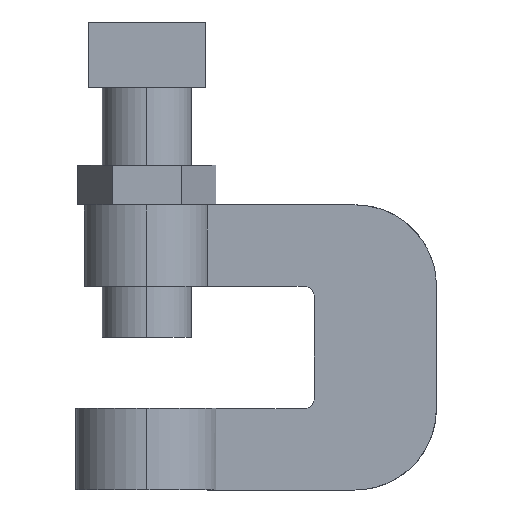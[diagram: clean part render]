
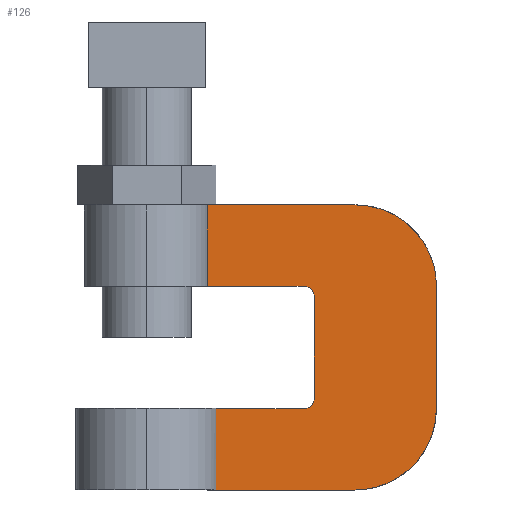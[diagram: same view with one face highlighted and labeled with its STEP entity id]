
A CAD part, front view. The second image highlights one B-rep face of the part: STEP entity #126.
In plain terms, the highlighted planar face has unit normal (0, -1, 0).
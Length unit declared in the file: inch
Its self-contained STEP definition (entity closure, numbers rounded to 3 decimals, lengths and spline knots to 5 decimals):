
#126=ADVANCED_FACE('',(#281),#282,.F.);
#281=FACE_OUTER_BOUND('',#516,.T.);
#282=PLANE('',#517);
#516=EDGE_LOOP('',(#914,#915,#916,#917,#918,#919,#920,#921,#922,#923,#924,#925,#926,#927));
#517=AXIS2_PLACEMENT_3D('',#928,#929,#930);
#914=ORIENTED_EDGE('',*,*,#1334,.T.);
#915=ORIENTED_EDGE('',*,*,#1321,.T.);
#916=ORIENTED_EDGE('',*,*,#1335,.F.);
#917=ORIENTED_EDGE('',*,*,#1276,.F.);
#918=ORIENTED_EDGE('',*,*,#1336,.F.);
#919=ORIENTED_EDGE('',*,*,#1337,.F.);
#920=ORIENTED_EDGE('',*,*,#1338,.F.);
#921=ORIENTED_EDGE('',*,*,#1295,.F.);
#922=ORIENTED_EDGE('',*,*,#1315,.F.);
#923=ORIENTED_EDGE('',*,*,#1339,.F.);
#924=ORIENTED_EDGE('',*,*,#1340,.F.);
#925=ORIENTED_EDGE('',*,*,#1341,.F.);
#926=ORIENTED_EDGE('',*,*,#1342,.F.);
#927=ORIENTED_EDGE('',*,*,#1343,.F.);
#928=CARTESIAN_POINT('',(0.74862,-0.125,0.99999));
#929=DIRECTION('',(0.,1.0,0.));
#930=DIRECTION('',(0.0,0.,1.0));
#1276=EDGE_CURVE('',#1491,#1493,#1494,.T.);
#1295=EDGE_CURVE('',#1524,#1526,#1527,.T.);
#1315=EDGE_CURVE('',#1558,#1524,#1560,.T.);
#1321=EDGE_CURVE('',#1570,#1568,#1571,.T.);
#1334=EDGE_CURVE('',#1592,#1570,#1593,.T.);
#1335=EDGE_CURVE('',#1493,#1568,#1594,.T.);
#1336=EDGE_CURVE('',#1595,#1491,#1596,.T.);
#1337=EDGE_CURVE('',#1597,#1595,#1598,.T.);
#1338=EDGE_CURVE('',#1526,#1597,#1599,.T.);
#1339=EDGE_CURVE('',#1600,#1558,#1601,.T.);
#1340=EDGE_CURVE('',#1602,#1600,#1603,.T.);
#1341=EDGE_CURVE('',#1604,#1602,#1605,.T.);
#1342=EDGE_CURVE('',#1606,#1604,#1607,.T.);
#1343=EDGE_CURVE('',#1592,#1606,#1608,.T.);
#1491=VERTEX_POINT('',#1810);
#1493=VERTEX_POINT('',#1813);
#1494=LINE('',#1814,#1815);
#1524=VERTEX_POINT('',#1858);
#1526=VERTEX_POINT('',#1861);
#1527=LINE('',#1862,#1863);
#1558=VERTEX_POINT('',#1920);
#1560=LINE('',#1923,#1924);
#1568=VERTEX_POINT('',#1935);
#1570=VERTEX_POINT('',#1938);
#1571=LINE('',#1939,#1940);
#1592=VERTEX_POINT('',#1987);
#1593=LINE('',#1988,#1989);
#1594=LINE('',#1990,#1991);
#1595=VERTEX_POINT('',#1992);
#1596=B_SPLINE_CURVE_WITH_KNOTS('',3,(#1993,#1994,#1995,#1996),.UNSPECIFIED.,.F.,.F.,(4,4),(0.0,1.0),.UNSPECIFIED.);
#1597=VERTEX_POINT('',#1997);
#1598=LINE('',#1998,#1999);
#1599=B_SPLINE_CURVE_WITH_KNOTS('',3,(#2000,#2001,#2002,#2003),.UNSPECIFIED.,.F.,.F.,(4,4),(0.0,1.0),.UNSPECIFIED.);
#1600=VERTEX_POINT('',#2004);
#1601=LINE('',#2005,#2006);
#1602=VERTEX_POINT('',#2007);
#1603=B_SPLINE_CURVE_WITH_KNOTS('',3,(#2008,#2009,#2010,#2011),.UNSPECIFIED.,.F.,.F.,(4,4),(0.0,1.0),.UNSPECIFIED.);
#1604=VERTEX_POINT('',#2012);
#1605=LINE('',#2013,#2014);
#1606=VERTEX_POINT('',#2015);
#1607=B_SPLINE_CURVE_WITH_KNOTS('',3,(#2016,#2017,#2018,#2019),.UNSPECIFIED.,.F.,.F.,(4,4),(0.0,1.0),.UNSPECIFIED.);
#1608=LINE('',#2020,#2021);
#1810=CARTESIAN_POINT('',(1.03615,-0.125,0.0));
#1813=CARTESIAN_POINT('',(0.0,-0.125,0.0));
#1814=CARTESIAN_POINT('',(1.03615,-0.125,0.0));
#1815=VECTOR('',#2376,1.0);
#1858=CARTESIAN_POINT('',(0.00011,-0.125,2.00001));
#1861=CARTESIAN_POINT('',(1.03615,-0.125,2.00001));
#1862=CARTESIAN_POINT('',(0.00011,-0.125,2.00001));
#1863=VECTOR('',#2391,1.0);
#1920=CARTESIAN_POINT('',(0.00011,-0.125,1.42858));
#1923=CARTESIAN_POINT('',(0.00011,-0.125,1.42858));
#1924=VECTOR('',#2401,1.0);
#1935=CARTESIAN_POINT('',(0.0,-0.125,0.00043));
#1938=CARTESIAN_POINT('',(0.06053,-0.125,0.00043));
#1939=CARTESIAN_POINT('',(0.16245,-0.125,0.00043));
#1940=VECTOR('',#2406,1.0);
#1987=CARTESIAN_POINT('',(0.06053,-0.125,0.57143));
#1988=CARTESIAN_POINT('',(0.06053,-0.125,0.57186));
#1989=VECTOR('',#2409,1.0);
#1990=CARTESIAN_POINT('',(0.0,-0.125,0.0));
#1991=VECTOR('',#2410,1.0);
#1992=CARTESIAN_POINT('',(1.60758,-0.125,0.57143));
#1993=CARTESIAN_POINT('',(1.60758,-0.125,0.57143));
#1994=CARTESIAN_POINT('',(1.60758,-0.125,0.25583));
#1995=CARTESIAN_POINT('',(1.35174,-0.125,0.0));
#1996=CARTESIAN_POINT('',(1.03615,-0.125,0.0));
#1997=CARTESIAN_POINT('',(1.60758,-0.125,1.42858));
#1998=CARTESIAN_POINT('',(1.60758,-0.125,1.42858));
#1999=VECTOR('',#2411,1.0);
#2000=CARTESIAN_POINT('',(1.03615,-0.125,2.00001));
#2001=CARTESIAN_POINT('',(1.35174,-0.125,2.00001));
#2002=CARTESIAN_POINT('',(1.60758,-0.125,1.74418));
#2003=CARTESIAN_POINT('',(1.60758,-0.125,1.42858));
#2004=CARTESIAN_POINT('',(0.67901,-0.125,1.42858));
#2005=CARTESIAN_POINT('',(0.67901,-0.125,1.42858));
#2006=VECTOR('',#2412,1.0);
#2007=CARTESIAN_POINT('',(0.75044,-0.125,1.35715));
#2008=CARTESIAN_POINT('',(0.75044,-0.125,1.35715));
#2009=CARTESIAN_POINT('',(0.75044,-0.125,1.39661));
#2010=CARTESIAN_POINT('',(0.71845,-0.125,1.42858));
#2011=CARTESIAN_POINT('',(0.67901,-0.125,1.42858));
#2012=CARTESIAN_POINT('',(0.75044,-0.125,0.64286));
#2013=CARTESIAN_POINT('',(0.75044,-0.125,0.64286));
#2014=VECTOR('',#2413,1.0);
#2015=CARTESIAN_POINT('',(0.67901,-0.125,0.57143));
#2016=CARTESIAN_POINT('',(0.67901,-0.125,0.57143));
#2017=CARTESIAN_POINT('',(0.71845,-0.125,0.57143));
#2018=CARTESIAN_POINT('',(0.75044,-0.125,0.60341));
#2019=CARTESIAN_POINT('',(0.75044,-0.125,0.64286));
#2020=CARTESIAN_POINT('',(0.0,-0.125,0.57143));
#2021=VECTOR('',#2414,1.0);
#2376=DIRECTION('',(-1.0,0.0,0.0));
#2391=DIRECTION('',(1.0,0.0,0.0));
#2401=DIRECTION('',(0.0,0.,1.0));
#2406=DIRECTION('',(-1.0,0.,0.));
#2409=DIRECTION('',(0.0,0.,-1.0));
#2410=DIRECTION('',(0.0,0.,1.0));
#2411=DIRECTION('',(0.0,0.,-1.0));
#2412=DIRECTION('',(-1.0,0.0,0.0));
#2413=DIRECTION('',(0.0,0.,1.0));
#2414=DIRECTION('',(1.0,0.0,0.0));
